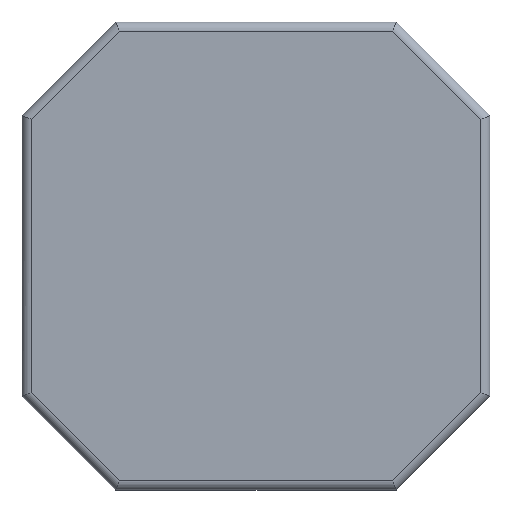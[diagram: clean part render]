
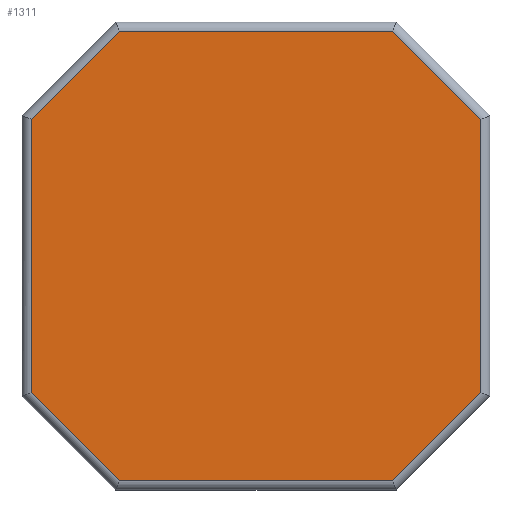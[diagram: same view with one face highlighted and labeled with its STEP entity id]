
A CAD part, front view. The second image highlights one B-rep face of the part: STEP entity #1311.
In plain terms, the highlighted planar face has unit normal (0, -1, 0).
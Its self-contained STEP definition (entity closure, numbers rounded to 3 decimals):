
#96=PLANE('',#1415);
#144=FACE_OUTER_BOUND('',#223,.T.);
#223=EDGE_LOOP('',(#941,#942,#943,#944,#945,#946,#947,#948));
#312=LINE('',#1784,#443);
#314=LINE('',#1792,#445);
#316=LINE('',#1799,#447);
#318=LINE('',#1807,#449);
#321=LINE('',#1815,#452);
#323=LINE('',#1821,#454);
#324=LINE('',#1824,#455);
#327=LINE('',#1828,#458);
#443=VECTOR('',#1483,10.);
#445=VECTOR('',#1491,10.);
#447=VECTOR('',#1497,10.);
#449=VECTOR('',#1505,10.);
#452=VECTOR('',#1512,10.);
#454=VECTOR('',#1518,10.);
#455=VECTOR('',#1523,10.);
#458=VECTOR('',#1528,10.);
#574=VERTEX_POINT('',#1782);
#575=VERTEX_POINT('',#1783);
#578=VERTEX_POINT('',#1791);
#580=VERTEX_POINT('',#1797);
#581=VERTEX_POINT('',#1798);
#584=VERTEX_POINT('',#1806);
#587=VERTEX_POINT('',#1814);
#589=VERTEX_POINT('',#1820);
#700=EDGE_CURVE('',#574,#575,#312,.T.);
#704=EDGE_CURVE('',#575,#578,#314,.T.);
#707=EDGE_CURVE('',#580,#581,#316,.T.);
#711=EDGE_CURVE('',#581,#584,#318,.T.);
#715=EDGE_CURVE('',#584,#587,#321,.T.);
#718=EDGE_CURVE('',#587,#589,#323,.T.);
#720=EDGE_CURVE('',#578,#580,#324,.T.);
#723=EDGE_CURVE('',#589,#574,#327,.T.);
#941=ORIENTED_EDGE('',*,*,#707,.F.);
#942=ORIENTED_EDGE('',*,*,#720,.F.);
#943=ORIENTED_EDGE('',*,*,#704,.F.);
#944=ORIENTED_EDGE('',*,*,#700,.F.);
#945=ORIENTED_EDGE('',*,*,#723,.F.);
#946=ORIENTED_EDGE('',*,*,#718,.F.);
#947=ORIENTED_EDGE('',*,*,#715,.F.);
#948=ORIENTED_EDGE('',*,*,#711,.F.);
#1311=ADVANCED_FACE('',(#144),#96,.F.);
#1415=AXIS2_PLACEMENT_3D('',#1847,#1546,#1547);
#1483=DIRECTION('',(-1.,0.,0.));
#1491=DIRECTION('',(-0.707,0.,0.707));
#1497=DIRECTION('',(0.707,0.,0.707));
#1505=DIRECTION('',(1.,0.,0.));
#1512=DIRECTION('',(0.707,0.,-0.707));
#1518=DIRECTION('',(0.,0.,-1.));
#1523=DIRECTION('',(0.,0.,1.));
#1528=DIRECTION('',(-0.707,0.,-0.707));
#1546=DIRECTION('center_axis',(0.,1.,0.));
#1547=DIRECTION('ref_axis',(1.,0.,0.));
#1782=CARTESIAN_POINT('',(15.309,0.,-23.129));
#1783=CARTESIAN_POINT('',(-13.863,0.,-23.129));
#1784=CARTESIAN_POINT('',(8.223,0.,-23.129));
#1791=CARTESIAN_POINT('',(-23.277,0.,-13.715));
#1792=CARTESIAN_POINT('',(-16.07,0.,-20.922));
#1797=CARTESIAN_POINT('',(-23.277,0.,15.457));
#1798=CARTESIAN_POINT('',(-13.863,0.,24.871));
#1799=CARTESIAN_POINT('',(-21.07,0.,17.664));
#1806=CARTESIAN_POINT('',(15.309,0.,24.871));
#1807=CARTESIAN_POINT('',(-6.777,0.,24.871));
#1814=CARTESIAN_POINT('',(24.723,0.,15.457));
#1815=CARTESIAN_POINT('',(17.516,0.,22.664));
#1820=CARTESIAN_POINT('',(24.723,0.,-13.715));
#1821=CARTESIAN_POINT('',(24.723,0.,8.371));
#1824=CARTESIAN_POINT('',(-23.277,0.,-6.629));
#1828=CARTESIAN_POINT('',(22.516,0.,-15.922));
#1847=CARTESIAN_POINT('Origin',(0.723,0.,0.871));
